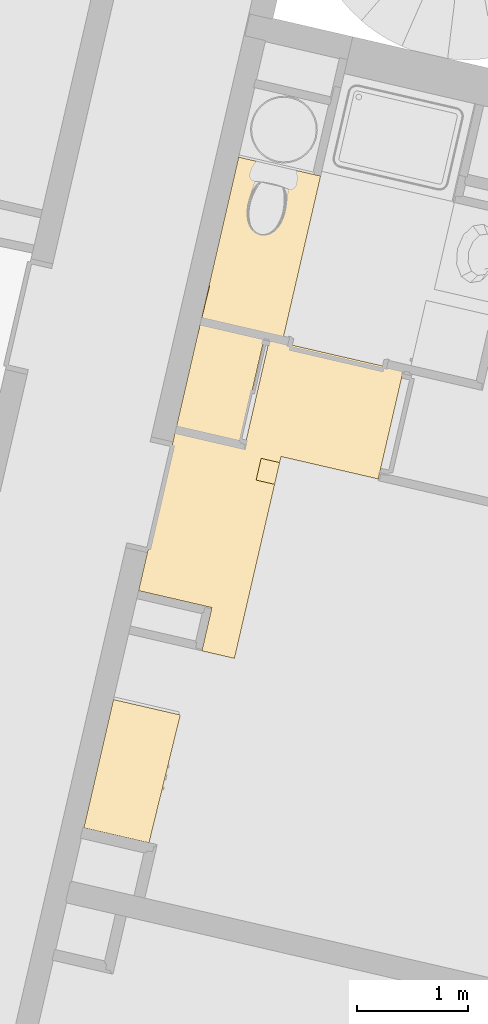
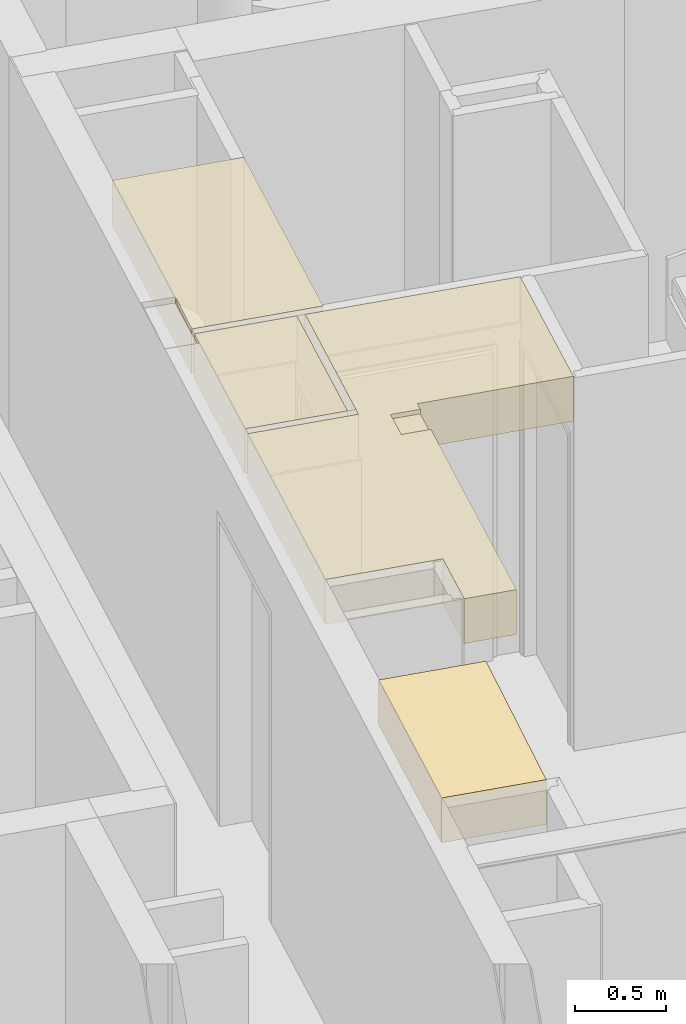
# One storey, part 58 of 91: 2 coverings.
"""IFC2X3 building model written with IfcOpenShell, lengths in metres."""

from ifc_helpers import new_model, entity, si_unit, converted_unit, derived_unit, money_unit, direction, frame, origin_with_axes, place, context, subcontext, project, spatial, faceted_brep, material, type_object, element, save


model = new_model("IFC2X3")

# Units and contexts
model_context = context("Model", 3, precision=1e-05, world=origin_with_axes(), true_north=direction((0.0, 1.0)))
body_context = subcontext(model_context, "Body", "Model", "MODEL_VIEW")
ifc_project = project(units=[si_unit("LENGTHUNIT", "METRE"), si_unit("AREAUNIT", "SQUARE_METRE"), si_unit("VOLUMEUNIT", "CUBIC_METRE"), converted_unit("PLANEANGLEUNIT", "DEGREE", entity("IfcPlaneAngleMeasure", 0.0174532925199), si_unit("PLANEANGLEUNIT", "RADIAN"), dimensions=[0, 0, 0, 0, 0, 0, 0]), si_unit("SOLIDANGLEUNIT", "STERADIAN"), money_unit("EUR"), converted_unit("TIMEUNIT", "Year", entity("IfcTimeMeasure", 31556926.0), si_unit("TIMEUNIT", "SECOND"), dimensions=[0, 0, 1, 0, 0, 0, 0]), si_unit("MASSUNIT", "GRAM", prefix="KILO"), si_unit("THERMODYNAMICTEMPERATUREUNIT", "DEGREE_CELSIUS"), si_unit("LUMINOUSINTENSITYUNIT", "LUMEN"), si_unit("ENERGYUNIT", "JOULE", prefix="MEGA"), derived_unit("THERMALCONDUCTANCEUNIT", [(si_unit("POWERUNIT", "WATT"), 1), (si_unit("LENGTHUNIT", "METRE"), -1), (si_unit("THERMODYNAMICTEMPERATUREUNIT", "KELVIN"), -1)]), derived_unit("SPECIFICHEATCAPACITYUNIT", [(si_unit("ENERGYUNIT", "JOULE"), 1), (si_unit("MASSUNIT", "GRAM", prefix="KILO"), -1), (si_unit("THERMODYNAMICTEMPERATUREUNIT", "KELVIN"), -1)]), derived_unit("MASSDENSITYUNIT", [(si_unit("MASSUNIT", "GRAM", prefix="KILO"), 1), (si_unit("VOLUMEUNIT", "CUBIC_METRE"), -1)])], contexts=[model_context])

# Site, building, storey
site_placement = place(None, origin_with_axes())
site = spatial("IfcSite", under=ifc_project, at=site_placement, Name="Site", CompositionType="ELEMENT")
building_placement = place(site_placement, origin_with_axes())
building = spatial("IfcBuilding", under=site, at=building_placement, Name="Bâtiment", CompositionType="ELEMENT")
storey_placement = place(building_placement, frame((0.0, 0.0, 5.44), z_axis=(0.0, 0.0, 1.0), x_axis=(1.0, 0.0, 0.0)))
storey = spatial("IfcBuildingStorey", under=building, at=storey_placement, Name="R+2", CompositionType="ELEMENT", Elevation=5.44)

# Coverings
ifc_material = material(Name="Finition int - Plaque de plâtre")
covering_type = type_object("IfcCoveringType", Name="Finition int - Plaque de plâtre 300", PredefinedType="CEILING")
covering_1_placement = place(storey_placement, frame((-12.3733751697, -16.1389900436, 2.5), z_axis=(0.0, 0.0, 1.0), x_axis=(1.0, 0.0, 0.0)))
element("IfcCovering", 1, at=covering_1_placement, inside=storey, type_object=covering_type, material=ifc_material, Name="Dalle_003", PredefinedType="CEILING", context=body_context, shape_type="Brep", body=[
    faceted_brep([(0.280821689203, 1.14758685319, 0.0), (0.0, 0.0, 0.0), (0.0, 0.0, -0.3), (0.280821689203, 1.14758685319, -0.3), (-0.318976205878, 1.28601257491, 0.0), (-0.584632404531, 0.134925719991, 0.0), (-0.584632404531, 0.134925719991, -0.3), (-0.318976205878, 1.28601257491, -0.3)], [[[0, 1, 2, 3]], [[4, 5, 1, 0]], [[1, 5, 6, 2]], [[7, 3, 2, 6]], [[4, 0, 3, 7]], [[5, 4, 7, 6]]]),
])
covering_2_placement = place(storey_placement, frame((-10.833336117, -10.1552773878, 2.5), z_axis=(0.0, 0.0, 1.0), x_axis=(1.0, 0.0, 0.0)))
element("IfcCovering", 2, at=covering_2_placement, inside=storey, type_object=covering_type, material=ifc_material, Name="Dalle_004", PredefinedType="CEILING", context=body_context, shape_type="Brep", body=[
    faceted_brep([(-1.08097722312, -1.32646552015, -0.3), (-1.08097722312, -1.32646552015, -0.03), (-1.07969956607, -1.32676038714, -0.03), (-1.07969956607, -1.32676038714, 0.0), (-0.507063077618, -1.45891760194, 0.0), (-0.507063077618, -1.45891760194, -0.3), (-1.10466104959, -1.4290874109, 0.0), (-1.10466104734, -1.42908740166, -0.03), (-1.29479713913, -2.25294604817, -0.3), (-1.29479713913, -2.25294604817, 0.0), (-0.720882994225, -2.38539813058, 0.0), (-0.720882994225, -2.38539813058, -0.3)], [[[0, 1, 2, 3, 4, 5]], [[6, 7, 1, 0, 8, 9]], [[7, 2, 1]], [[7, 6, 3, 2]], [[4, 3, 6, 9, 10]], [[10, 11, 5, 4]], [[8, 0, 5, 11]], [[9, 8, 11, 10]]]),
    faceted_brep([(-1.00148996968, -0.982047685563, 0.0), (-0.99594111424, -0.983401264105, 0.0), (-1.06832320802, -1.2801241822, 0.0), (-0.334520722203, -1.44947645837, 0.0), (0.0, 0.0, 0.0), (-0.735662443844, 0.16978153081, 0.0), (-0.99594111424, -0.983401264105, -0.03), (-1.00148996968, -0.982047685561, -0.03), (-1.06832320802, -1.2801241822, -0.03), (-1.07018316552, -1.27969492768, -0.03), (-1.07018316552, -1.27969492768, -0.3), (-0.334520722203, -1.44947645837, -0.3), (0.0, 0.0, -0.3), (-0.735662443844, 0.16978153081, -0.3)], [[[0, 1, 2, 3, 4, 5]], [[6, 1, 0, 7]], [[8, 2, 1, 6]], [[2, 8, 9, 10, 11, 3]], [[12, 4, 3, 11]], [[13, 5, 4, 12]], [[9, 7, 0, 5, 13, 10]], [[6, 7, 9, 8]], [[13, 12, 11, 10]]]),
    faceted_brep([(-0.412682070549, -2.76646522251, 0.0), (-0.578905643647, -2.72810293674, 0.0), (-0.533930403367, -2.53322546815, 0.0), (-0.367706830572, -2.57158775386, 0.0), (-0.355113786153, -2.51702216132, 0.0), (0.516962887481, -2.7182863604, 0.0), (0.741127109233, -1.74698401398, 0.0), (-0.46029248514, -1.46971165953, 0.0), (-0.674112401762, -2.39619218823, 0.0), (-0.684906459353, -2.44296278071, 0.0), (-1.30559119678, -2.29971664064, 0.0), (-1.63346069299, -3.72037337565, 0.0), (-0.975749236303, -3.87216481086, 0.0), (-1.06547707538, -4.26095504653, 0.0), (-0.773160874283, -4.32841790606, 0.0), (-0.578905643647, -2.72810293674, -0.03), (-0.412682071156, -2.76646522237, -0.03), (-0.533930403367, -2.53322546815, -0.03), (-0.367706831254, -2.5715877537, -0.03), (-0.773160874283, -4.32841790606, -0.3), (-0.355113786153, -2.51702216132, -0.3), (0.516962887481, -2.7182863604, -0.3), (0.741127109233, -1.74698401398, -0.3), (-0.46029248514, -1.46971165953, -0.3), (-0.674112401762, -2.39619218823, -0.3), (-0.684906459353, -2.44296278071, -0.3), (-1.30559119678, -2.29971664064, -0.3), (-1.63346069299, -3.72037337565, -0.3), (-0.975749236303, -3.87216481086, -0.3), (-1.06547707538, -4.26095504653, -0.3)], [[[0, 1, 2, 3, 4, 5, 6, 7, 8, 9, 10, 11, 12, 13, 14]], [[15, 1, 0, 16]], [[17, 2, 1, 15]], [[17, 18, 3, 2]], [[18, 16, 0, 14, 19, 20, 4, 3]], [[21, 5, 4, 20]], [[5, 21, 22, 6]], [[6, 22, 23, 7]], [[23, 24, 8, 7]], [[25, 9, 8, 24]], [[25, 26, 10, 9]], [[27, 11, 10, 26]], [[28, 12, 11, 27]], [[29, 13, 12, 28]], [[19, 14, 13, 29]], [[15, 16, 18, 17]], [[26, 25, 24, 23, 22, 21, 20, 19, 29, 28, 27]]]),
])

save(model, "model.ifc")
